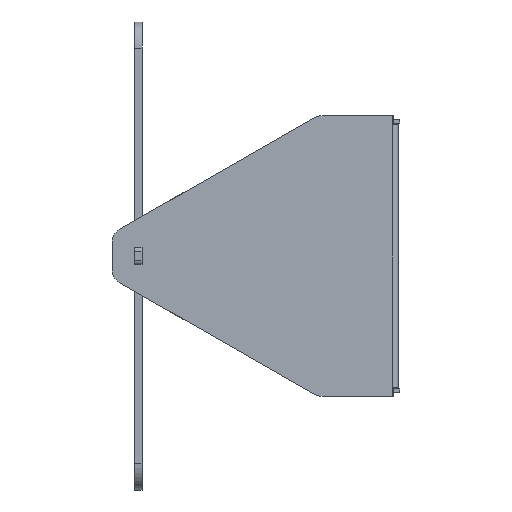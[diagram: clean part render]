
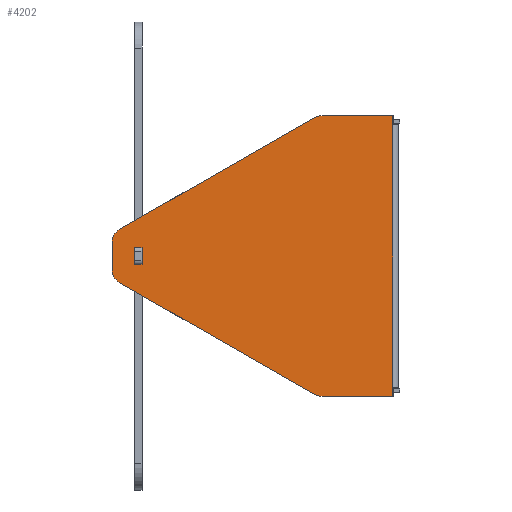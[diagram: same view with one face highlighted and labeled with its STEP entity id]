
A CAD part, left-side view. The second image highlights one B-rep face of the part: STEP entity #4202.
In plain terms, the highlighted planar face has unit normal (-1, -0.018, 0).
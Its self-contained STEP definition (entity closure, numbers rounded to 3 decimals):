
#124 = DIRECTION ( 'NONE',  ( 0., 0., 1. ) ) ;
#146 = CARTESIAN_POINT ( 'NONE',  ( -111.731, 0.474, 0. ) ) ;
#159 = CARTESIAN_POINT ( 'NONE',  ( -110.63, -62.598, -85.037 ) ) ;
#171 = DIRECTION ( 'NONE',  ( 0.015, -0.868, -0.497 ) ) ;
#182 = CARTESIAN_POINT ( 'NONE',  ( -113.039, 75.383, -3.681 ) ) ;
#183 = CARTESIAN_POINT ( 'NONE',  ( -113.039, 75.383, 3.681 ) ) ;
#196 = DIRECTION ( 'NONE',  ( 0., 0., -1. ) ) ;
#204 = CARTESIAN_POINT ( 'NONE',  ( -113.039, 75.383, 0. ) ) ;
#248 = CARTESIAN_POINT ( 'NONE',  ( -112.06, 19.327, 37.5 ) ) ;
#345 = DIRECTION ( 'NONE',  ( -1., -0.017, 0. ) ) ;
#376 = CARTESIAN_POINT ( 'NONE',  ( -112.095, 21.315, 36.971 ) ) ;
#440 = DIRECTION ( 'NONE',  ( 0., 0., -1. ) ) ;
#442 = CARTESIAN_POINT ( 'NONE',  ( -112.06, 19.327, -37.5 ) ) ;
#444 = CARTESIAN_POINT ( 'NONE',  ( -112.06, 19.327, -33.5 ) ) ;
#473 = CARTESIAN_POINT ( 'NONE',  ( -111.731, 0.474, -37.5 ) ) ;
#478 = CARTESIAN_POINT ( 'NONE',  ( -113.003, 73.371, -7.152 ) ) ;
#492 = CARTESIAN_POINT ( 'NONE',  ( -113.003, 73.371, 7.152 ) ) ;
#503 = CARTESIAN_POINT ( 'NONE',  ( -111.731, 0.474, 37.5 ) ) ;
#680 = LINE ( 'NONE', #1158, #692 ) ;
#684 = VECTOR ( 'NONE', #1212, 1000. ) ;
#692 = VECTOR ( 'NONE', #1150, 1000. ) ;
#732 = CIRCLE ( 'NONE', #1489, 4. ) ;
#808 = VECTOR ( 'NONE', #1102, 1000. ) ;
#836 = LINE ( 'NONE', #1101, #808 ) ;
#913 = CIRCLE ( 'NONE', #1503, 4. ) ;
#1001 = LINE ( 'NONE', #1442, #684 ) ;
#1084 = DIRECTION ( 'NONE',  ( 0., 0., -1. ) ) ;
#1085 = DIRECTION ( 'NONE',  ( -1., -0.017, 0. ) ) ;
#1086 = CARTESIAN_POINT ( 'NONE',  ( -112.06, 19.327, 33.5 ) ) ;
#1101 = CARTESIAN_POINT ( 'NONE',  ( -110.63, -62.598, 85.037 ) ) ;
#1102 = DIRECTION ( 'NONE',  ( 0.015, -0.868, 0.497 ) ) ;
#1150 = DIRECTION ( 'NONE',  ( 0.017, -1., 0. ) ) ;
#1158 = CARTESIAN_POINT ( 'NONE',  ( -109.78, -111.294, 37.5 ) ) ;
#1209 = CARTESIAN_POINT ( 'NONE',  ( -112.969, 71.384, 3.681 ) ) ;
#1212 = DIRECTION ( 'NONE',  ( 0.017, -1., 0. ) ) ;
#1442 = CARTESIAN_POINT ( 'NONE',  ( -109.78, -111.294, -37.5 ) ) ;
#1443 = DIRECTION ( 'NONE',  ( -1., -0.017, 0. ) ) ;
#1444 = DIRECTION ( 'NONE',  ( 0., 0., -1. ) ) ;
#1474 = AXIS2_PLACEMENT_3D ( 'NONE', #444, #345, #440 ) ;
#1489 = AXIS2_PLACEMENT_3D ( 'NONE', #1209, #1443, #1444 ) ;
#1503 = AXIS2_PLACEMENT_3D ( 'NONE', #1086, #1085, #1084 ) ;
#1544 = CARTESIAN_POINT ( 'NONE',  ( -112.969, 71.384, -3.681 ) ) ;
#1545 = DIRECTION ( 'NONE',  ( -1., -0.017, 0. ) ) ;
#1618 = DIRECTION ( 'NONE',  ( 0., 0., -1. ) ) ;
#1719 = CARTESIAN_POINT ( 'NONE',  ( -112.095, 21.315, -36.971 ) ) ;
#2068 = AXIS2_PLACEMENT_3D ( 'NONE', #1544, #1545, #1618 ) ;
#2281 = CIRCLE ( 'NONE', #1474, 4. ) ;
#2310 = FACE_OUTER_BOUND ( 'NONE', #3512, .T. ) ;
#2338 = VECTOR ( 'NONE', #196, 1000. ) ;
#2355 = LINE ( 'NONE', #204, #2338 ) ;
#2366 = LINE ( 'NONE', #159, #2647 ) ;
#2614 = CIRCLE ( 'NONE', #2068, 4. ) ;
#2642 = LINE ( 'NONE', #146, #2643 ) ;
#2643 = VECTOR ( 'NONE', #124, 1000. ) ;
#2647 = VECTOR ( 'NONE', #171, 1000. ) ;
#2684 = EDGE_CURVE ( 'NONE', #3839, #3814, #836, .T. ) ;
#2685 = EDGE_CURVE ( 'NONE', #3795, #3814, #913, .T. ) ;
#2695 = EDGE_CURVE ( 'NONE', #3839, #3994, #732, .T. ) ;
#2697 = EDGE_CURVE ( 'NONE', #3752, #3802, #1001, .T. ) ;
#2703 = EDGE_CURVE ( 'NONE', #3795, #3959, #680, .T. ) ;
#2767 = EDGE_CURVE ( 'NONE', #3994, #3992, #2355, .T. ) ;
#2784 = EDGE_CURVE ( 'NONE', #3980, #4041, #2366, .T. ) ;
#2785 = EDGE_CURVE ( 'NONE', #3802, #3959, #2642, .T. ) ;
#2793 = EDGE_CURVE ( 'NONE', #4041, #3752, #2281, .T. ) ;
#2871 = AXIS2_PLACEMENT_3D ( 'NONE', #4393, #4552, #4408 ) ;
#3044 = ORIENTED_EDGE ( 'NONE', *, *, #2684, .F. ) ;
#3045 = ORIENTED_EDGE ( 'NONE', *, *, #2703, .F. ) ;
#3046 = ORIENTED_EDGE ( 'NONE', *, *, #2685, .T. ) ;
#3047 = ORIENTED_EDGE ( 'NONE', *, *, #2697, .T. ) ;
#3053 = ORIENTED_EDGE ( 'NONE', *, *, #2784, .T. ) ;
#3054 = ORIENTED_EDGE ( 'NONE', *, *, #2767, .T. ) ;
#3055 = ORIENTED_EDGE ( 'NONE', *, *, #4119, .T. ) ;
#3119 = ORIENTED_EDGE ( 'NONE', *, *, #2793, .T. ) ;
#3121 = ORIENTED_EDGE ( 'NONE', *, *, #2785, .T. ) ;
#3128 = ORIENTED_EDGE ( 'NONE', *, *, #2695, .T. ) ;
#3512 = EDGE_LOOP ( 'NONE', ( #3047, #3121, #3045, #3046, #3044, #3128, #3054, #3055, #3053, #3119 ) ) ;
#3752 = VERTEX_POINT ( 'NONE', #442 ) ;
#3795 = VERTEX_POINT ( 'NONE', #248 ) ;
#3802 = VERTEX_POINT ( 'NONE', #473 ) ;
#3814 = VERTEX_POINT ( 'NONE', #376 ) ;
#3839 = VERTEX_POINT ( 'NONE', #492 ) ;
#3959 = VERTEX_POINT ( 'NONE', #503 ) ;
#3980 = VERTEX_POINT ( 'NONE', #478 ) ;
#3992 = VERTEX_POINT ( 'NONE', #182 ) ;
#3994 = VERTEX_POINT ( 'NONE', #183 ) ;
#4041 = VERTEX_POINT ( 'NONE', #1719 ) ;
#4119 = EDGE_CURVE ( 'NONE', #3992, #3980, #2614, .T. ) ;
#4202 = ADVANCED_FACE ( 'NONE', ( #2310 ), #4392, .T. ) ;
#4392 = PLANE ( 'NONE',  #2871 ) ;
#4393 = CARTESIAN_POINT ( 'NONE',  ( -109.78, -111.294, 0. ) ) ;
#4408 = DIRECTION ( 'NONE',  ( 0., 0., -1. ) ) ;
#4552 = DIRECTION ( 'NONE',  ( -1., -0.017, 0. ) ) ;
